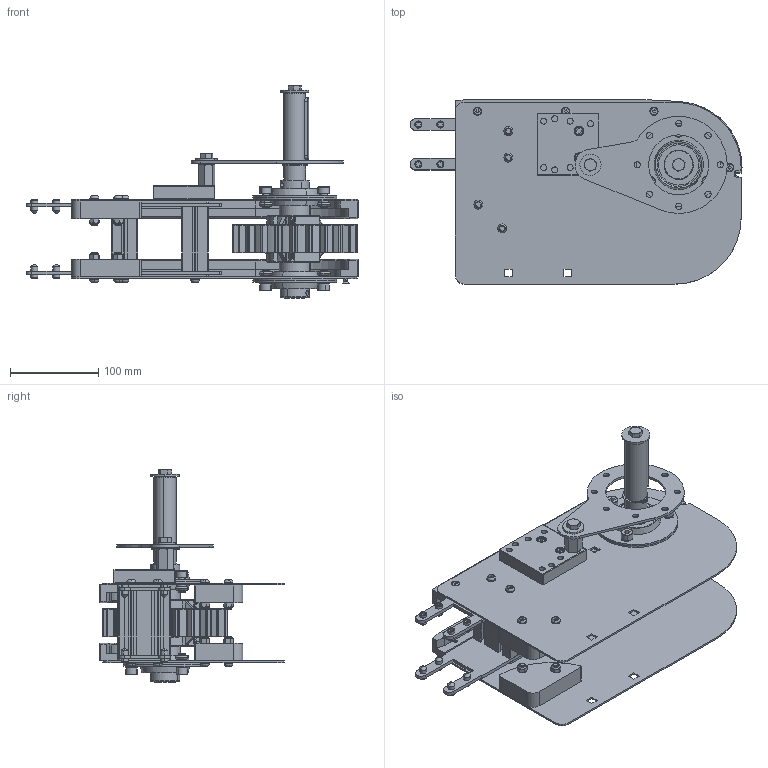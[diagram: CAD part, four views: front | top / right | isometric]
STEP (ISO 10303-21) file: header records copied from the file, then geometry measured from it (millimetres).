
FILE_DESCRIPTION (( 'STEP AP214' ), '1' );
FILE_NAME ('2000.325.149-2S.STEP', '2021-06-18T07:24:11', ( 'Localadmin' ), ( 'Microsoft' ), 'SwSTEP 2.0', 'SolidWorks 2018', '' );
FILE_SCHEMA (( 'AUTOMOTIVE_DESIGN' ));
Length unit declared in the file: millimetre
Products named in the file (33): 2000.325.103; VITI TESTA BOMBATA ISO 730 INOX_M6x20 ISO 7380 INOX; 084.808.004; 084.301.000 VITI ALUSIC_084.301.029; 2000.325.105-2S; VITI TE UNI 5739 INOX_M8x16 UNI 5739 INOX; 2000.001.024; 2000.325.003S; RONDELLE FASCIA LARGA UNI 6593 INOX_8.4x24 UNI 6593 INOX; 2000.001.026; GRANI A PUNTA PIATTA UNI 5923_M8x20 UNI 5923; 2000.001.025; 2000.325.104-2S; RONDELLE FASCIA LARGA UNI 6593 INOX_8.4x32 UNI 6593 INOX; 2000.325.001_Default<Lavorato>; VITI TE UNI 5739 INOX_M8x20 UNI 5739 INOX; 2000.001.001; 2000.001.006-2; VITI TCEI UNI 5931 INOX_M6x30 UNI 5931 INOX; 084.802.027; GRANI A PUNTA CONICA UNI 5927_M8x16 UNI 5927; 2000.325.149-2S; PU008.012.025N; VITI TSEI UNI 5933 INOX_0410UNI5933A2; DADI ESAGONALI AUTOBLOCCANTI UNI 7473 INOX_M6 UNI 7473 INOX; RUOTE DI RINVIO NSX881; VITI TESTA BOMBATA ISO 730 INOX_M6x30 ISO 7380 INOX; SBPF205; 084.312.006; CHIAVETTE_A 8x7x50 UNI 6604-69; Circlip DIN 471 - 25 x 1.2_Circlip DIN 471 - 25 x 1.2; 2000.001.011; CHIAVETTE_A 8x7x70 UNI 6604-69
Assembly tree (75 placements, depth 2):
  2000.325.149-2S
    084.802.027
    2000.001.006-2  x2
    2000.001.001  x2
    2000.325.001_Default<Lavorato>  x2
    2000.325.104-2S
    2000.001.025
    2000.001.026  x2
    2000.325.003S  x2
    2000.001.024
    2000.325.105-2S
    084.808.004
    2000.325.103
    2000.001.011
    CHIAVETTE_A 8x7x50 UNI 6604-69  x2
    SBPF205  x2
    RUOTE DI RINVIO NSX881
    VITI TSEI UNI 5933 INOX_0410UNI5933A2  x8
    GRANI A PUNTA CONICA UNI 5927_M8x16 UNI 5927  x8
    VITI TCEI UNI 5931 INOX_M6x30 UNI 5931 INOX  x2
    VITI TE UNI 5739 INOX_M8x20 UNI 5739 INOX
    RONDELLE FASCIA LARGA UNI 6593 INOX_8.4x32 UNI 6593 INOX
    GRANI A PUNTA PIATTA UNI 5923_M8x20 UNI 5923
    RONDELLE FASCIA LARGA UNI 6593 INOX_8.4x24 UNI 6593 INOX
    VITI TE UNI 5739 INOX_M8x16 UNI 5739 INOX
    084.301.000 VITI ALUSIC_084.301.029  x6
    VITI TESTA BOMBATA ISO 730 INOX_M6x20 ISO 7380 INOX  x6
    CHIAVETTE_A 8x7x70 UNI 6604-69
    Circlip DIN 471 - 25 x 1.2_Circlip DIN 471 - 25 x 1.2
    084.312.006  x6
    VITI TESTA BOMBATA ISO 730 INOX_M6x30 ISO 7380 INOX  x4
    DADI ESAGONALI AUTOBLOCCANTI UNI 7473 INOX_M6 UNI 7473 INOX  x4
    PU008.012.025N
Bounding box: 376.25 x 208.8 x 241.33 mm (x, y, z)
Volume: 1409127.2 mm3; surface area: 747359.4 mm2
Topology: 81 solids, 87 shells, 3168 faces, 7614 edges, 4589 vertices
Faces by surface type: plane 1132, cylinder 1070, bspline 608, cone 302, torus 56
Entity records: 76946 total; most frequent: CARTESIAN_POINT 24677, ORIENTED_EDGE 10756, DIRECTION 10317, EDGE_CURVE 5380, AXIS2_PLACEMENT_3D 3929, VERTEX_POINT 3257, EDGE_LOOP 2505, LINE 2459
